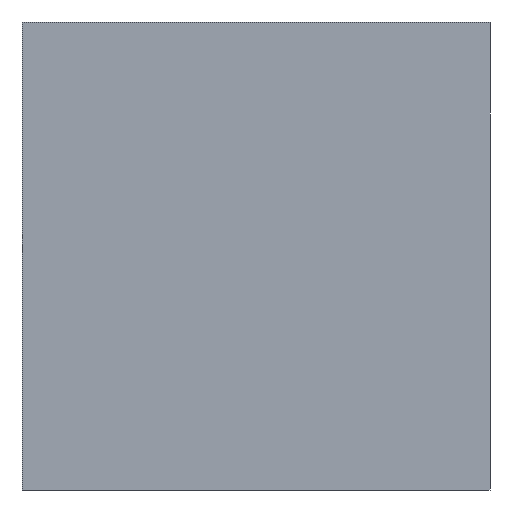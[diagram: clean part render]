
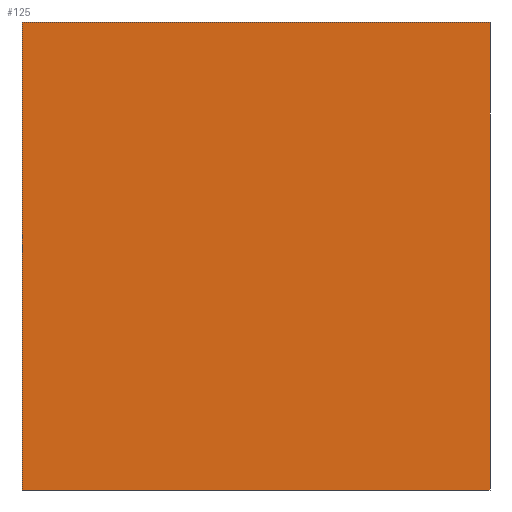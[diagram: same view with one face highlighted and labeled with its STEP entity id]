
A CAD part, left-side view. The second image highlights one B-rep face of the part: STEP entity #125.
In plain terms, the highlighted planar face has unit normal (-1, 0, 0).
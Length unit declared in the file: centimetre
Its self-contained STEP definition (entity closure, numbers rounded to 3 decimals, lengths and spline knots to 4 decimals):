
#31 = ORIENTED_EDGE ( 'NONE', *, *, #420, .F. ) ;
#124 = VECTOR ( 'NONE', #819, 100. ) ;
#125 = ADVANCED_FACE ( 'NONE', ( #232 ), #150, .F. ) ;
#139 = VECTOR ( 'NONE', #753, 100. ) ;
#142 = VERTEX_POINT ( 'NONE', #216 ) ;
#150 = PLANE ( 'NONE',  #749 ) ;
#187 = EDGE_CURVE ( 'NONE', #777, #602, #430, .T. ) ;
#216 = CARTESIAN_POINT ( 'NONE',  ( 0., 0., 1000. ) ) ;
#232 = FACE_OUTER_BOUND ( 'NONE', #375, .T. ) ;
#246 = CARTESIAN_POINT ( 'NONE',  ( 0., 1000., 0. ) ) ;
#294 = DIRECTION ( 'NONE',  ( 0., 0., -1. ) ) ;
#304 = VERTEX_POINT ( 'NONE', #455 ) ;
#321 = DIRECTION ( 'NONE',  ( 0., -1., 0. ) ) ;
#375 = EDGE_LOOP ( 'NONE', ( #448, #31, #637, #410 ) ) ;
#410 = ORIENTED_EDGE ( 'NONE', *, *, #187, .T. ) ;
#420 = EDGE_CURVE ( 'NONE', #142, #304, #426, .T. ) ;
#426 = LINE ( 'NONE', #734, #124 ) ;
#430 = LINE ( 'NONE', #651, #825 ) ;
#448 = ORIENTED_EDGE ( 'NONE', *, *, #486, .T. ) ;
#455 = CARTESIAN_POINT ( 'NONE',  ( 0., 0., 0. ) ) ;
#486 = EDGE_CURVE ( 'NONE', #602, #304, #942, .T. ) ;
#566 = EDGE_CURVE ( 'NONE', #777, #142, #849, .T. ) ;
#597 = CARTESIAN_POINT ( 'NONE',  ( 0., 1000., 1000. ) ) ;
#602 = VERTEX_POINT ( 'NONE', #644 ) ;
#637 = ORIENTED_EDGE ( 'NONE', *, *, #566, .F. ) ;
#644 = CARTESIAN_POINT ( 'NONE',  ( 0., 1000., 0. ) ) ;
#651 = CARTESIAN_POINT ( 'NONE',  ( 0., 1000., 1000. ) ) ;
#734 = CARTESIAN_POINT ( 'NONE',  ( 0., 0., 1000. ) ) ;
#749 = AXIS2_PLACEMENT_3D ( 'NONE', #932, #765, #294 ) ;
#753 = DIRECTION ( 'NONE',  ( 0., -1., 0. ) ) ;
#765 = DIRECTION ( 'NONE',  ( 1., 0., 0. ) ) ;
#777 = VERTEX_POINT ( 'NONE', #930 ) ;
#819 = DIRECTION ( 'NONE',  ( 0., 0., -1. ) ) ;
#825 = VECTOR ( 'NONE', #964, 100. ) ;
#849 = LINE ( 'NONE', #597, #139 ) ;
#930 = CARTESIAN_POINT ( 'NONE',  ( 0., 1000., 1000. ) ) ;
#932 = CARTESIAN_POINT ( 'NONE',  ( 0., 1000., 1000. ) ) ;
#942 = LINE ( 'NONE', #246, #963 ) ;
#963 = VECTOR ( 'NONE', #321, 100. ) ;
#964 = DIRECTION ( 'NONE',  ( 0., 0., -1. ) ) ;
